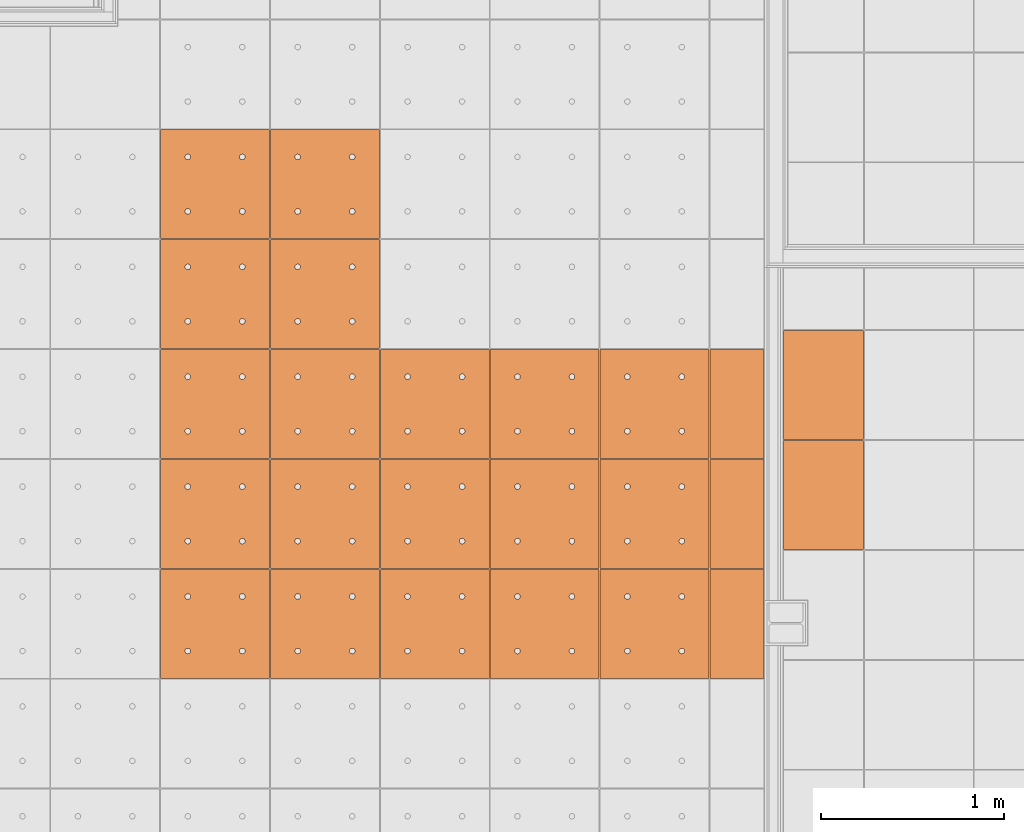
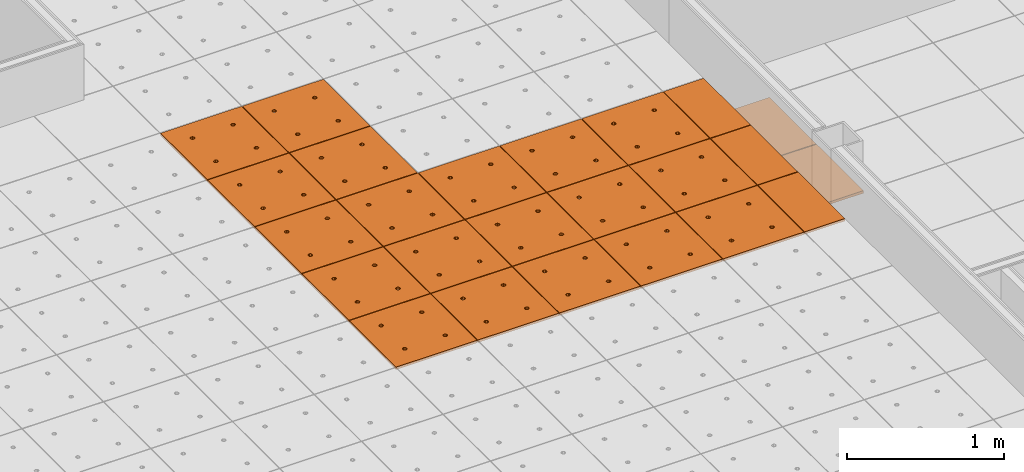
# One storey, part 253 of 338: 24 proxies, 2 elements without a shape of their own.
"""IFC2X3 building model written with IfcOpenShell, lengths in millimetres."""

from ifc_helpers import new_model, entity, si_unit, converted_unit, derived_unit, money_unit, direction, frame, origin_with_axes, place, context, subcontext, project, spatial, faceted_brep, source, transform, mapped, material, type_object, type_shapes, element, aggregate, save


model = new_model("IFC2X3")

# Units and contexts
model_context = context("Model", 3, precision=0.01, world=origin_with_axes(), true_north=direction((0.0, 1.0)))
plan_context = context("Plan", 3, precision=0.01, world=origin_with_axes(), true_north=direction((0.0, 1.0)))
body_context = subcontext(model_context, "Body", "Model", "MODEL_VIEW")
ifc_project = project(units=[si_unit("LENGTHUNIT", "METRE", prefix="MILLI"), si_unit("AREAUNIT", "SQUARE_METRE"), si_unit("VOLUMEUNIT", "CUBIC_METRE"), converted_unit("PLANEANGLEUNIT", "DEGREE", entity("IfcPlaneAngleMeasure", 0.0174532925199), si_unit("PLANEANGLEUNIT", "RADIAN"), dimensions=[0, 0, 0, 0, 0, 0, 0]), money_unit("EUR"), converted_unit("TIMEUNIT", "Year", entity("IfcTimeMeasure", 31556926.0), si_unit("TIMEUNIT", "SECOND"), dimensions=[0, 0, 1, 0, 0, 0, 0]), si_unit("MASSUNIT", "GRAM", prefix="KILO"), si_unit("THERMODYNAMICTEMPERATUREUNIT", "DEGREE_CELSIUS"), si_unit("LUMINOUSINTENSITYUNIT", "LUMEN"), si_unit("ENERGYUNIT", "JOULE", prefix="MEGA"), derived_unit("THERMALCONDUCTANCEUNIT", [(si_unit("POWERUNIT", "WATT"), 1), (si_unit("LENGTHUNIT", "METRE"), -1), (si_unit("THERMODYNAMICTEMPERATUREUNIT", "KELVIN"), -1)]), derived_unit("SPECIFICHEATCAPACITYUNIT", [(si_unit("ENERGYUNIT", "JOULE"), 1), (si_unit("MASSUNIT", "GRAM", prefix="KILO"), -1), (si_unit("THERMODYNAMICTEMPERATUREUNIT", "KELVIN"), -1)]), derived_unit("MASSDENSITYUNIT", [(si_unit("MASSUNIT", "GRAM", prefix="KILO"), 1), (si_unit("VOLUMEUNIT", "CUBIC_METRE"), -1)])], contexts=[model_context, plan_context])

# Site, building, storey
site_placement = place(None, origin_with_axes())
site = spatial("IfcSite", under=ifc_project, at=site_placement, Name="Fortuinstraat Woensdrecht", CompositionType="ELEMENT")
building_placement = place(site_placement, origin_with_axes())
building = spatial("IfcBuilding", under=site, at=building_placement, Name="IKC Fortuna", CompositionType="ELEMENT")
storey_placement = place(building_placement, origin_with_axes())
storey = spatial("IfcBuildingStorey", under=building, at=storey_placement, Name="00 begane grond", CompositionType="ELEMENT", Elevation=0.0)

# Covering, proxies
covering_type = type_object("IfcCoveringType", Name="Curtain Wall Type", PredefinedType="CEILING")
covering_1_placement = place(storey_placement, frame((21294.5342274, 19421.5253195, 2810.0), z_axis=(0.0, 0.0, 1.0), x_axis=(1.0, 0.0, 0.0)))
covering_1 = element("IfcCovering", 1, at=covering_1_placement, inside=storey, type_object=covering_type, Name="45_Plafondafwerking_P02", PredefinedType="CEILING")
ifc_material = material(Name="Gipsplaat")
building_element_proxy_type_1 = type_object("IfcBuildingElementProxyType", Name="Distinct Panel 443 x 600 x 20", PredefinedType="NOTDEFINED")
shared_shape_1 = source(origin_with_axes(), body_context, "Body", "Brep", [
    faceted_brep([(2.49999594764, 2.5, -10.0), (440.099264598, 2.49999999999, -10.0), (440.099264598, 2.49999999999, 10.0), (2.49999594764, 2.5, 10.0), (2.49999594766, 597.5, -10.0), (440.099264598, 597.5, -10.0), (440.099264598, 597.5, 10.0), (2.49999594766, 597.5, 10.0)], [[[0, 1, 2, 3]], [[0, 4, 5, 1]], [[1, 5, 6, 2]], [[3, 2, 6, 7]], [[4, 0, 3, 7]], [[5, 4, 7, 6]]]),
])
type_shapes(building_element_proxy_type_1, [shared_shape_1])
proxy_1_placement = place(covering_1_placement, frame((-521.299632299, 1200.0, 0.0), z_axis=(0.0, 0.0, 1.0), x_axis=(1.0, 0.0, 0.0)))
proxy_1 = element("IfcBuildingElementProxy", 2, at=proxy_1_placement, type_object=building_element_proxy_type_1, material=ifc_material, Name="__Panel-D", context=body_context, shape_type="MappedRepresentation", body=[
    mapped(shared_shape_1, transform((221.299632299, 300.0, 0.0), x_axis=(-1.0, 0.0, 0.0), y_axis=(0.0, -1.0, 0.0), z_axis=(0.0, 0.0, 1.0))),
])
proxy_2_placement = place(covering_1_placement, frame((-521.299632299, 1800.0, 0.0), z_axis=(0.0, 0.0, 1.0), x_axis=(1.0, 0.0, 0.0)))
proxy_2 = element("IfcBuildingElementProxy", 3, at=proxy_2_placement, type_object=building_element_proxy_type_1, material=ifc_material, Name="__Panel-D", context=body_context, shape_type="MappedRepresentation", body=[
    mapped(shared_shape_1, transform((221.299632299, 300.0, 0.0), x_axis=(-1.0, 0.0, 0.0), y_axis=(0.0, -1.0, 0.0), z_axis=(0.0, 0.0, 1.0))),
])
aggregate(covering_1, [proxy_1, proxy_2])

covering_2_placement = place(storey_placement, frame((17451.9845996, 24118.5314449, 3210.0), z_axis=(0.0, 0.0, 1.0), x_axis=(1.0, 0.0, 0.0)))
covering_2 = element("IfcCovering", 4, at=covering_2_placement, inside=storey, type_object=covering_type, Name="45_Plafondafwerking_P01", PredefinedType="CEILING")
building_element_proxy_type_2 = type_object("IfcBuildingElementProxyType", Name="Main Panel 600 x 600 x 20", PredefinedType="NOTDEFINED")
shared_shape_2 = source(origin_with_axes(), body_context, "Body", "Brep", [
    faceted_brep([(2.49999999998, 2.49999999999, -10.0), (300.0, 2.49999999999, -10.0), (300.0, 2.49999999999, 10.0), (2.49999999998, 2.49999999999, 10.0), (2.49999999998, 300.0, -10.0), (2.49999999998, 597.5, -10.0), (300.0, 597.5, -10.0), (597.5, 597.5, -10.0), (597.5, 300.0, -10.0), (597.5, 2.49999999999, -10.0), (166.25, 450.06232995, -10.0), (165.79423259, 452.64711538, -10.0), (164.896546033, 455.11348892, -10.0), (163.58421608, 457.38651108, -10.0), (161.897117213, 459.39711721, -10.0), (159.886511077, 461.08421608, -10.0), (157.613488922, 462.39654603, -10.0), (155.147115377, 463.29423259, -10.0), (152.562329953, 463.75, -10.0), (149.937670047, 463.75, -10.0), (147.352884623, 463.29423259, -10.0), (144.886511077, 462.39654603, -10.0), (142.613488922, 461.08421608, -10.0), (140.602882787, 459.39711721, -10.0), (138.91578392, 457.38651108, -10.0), (137.603453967, 455.11348892, -10.0), (136.705767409, 452.64711538, -10.0), (136.25, 450.06232995, -10.0), (136.25, 448.75, -10.0), (136.25, 447.43767005, -10.0), (136.705767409, 444.85288462, -10.0), (137.603453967, 442.38651108, -10.0), (138.91578392, 440.11348892, -10.0), (140.602882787, 438.10288279, -10.0), (142.613488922, 436.41578392, -10.0), (144.886511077, 435.10345397, -10.0), (147.352884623, 434.20576741, -10.0), (149.937670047, 433.75, -10.0), (152.562329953, 433.75, -10.0), (155.147115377, 434.20576741, -10.0), (157.613488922, 435.10345397, -10.0), (159.886511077, 436.41578392, -10.0), (161.897117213, 438.10288279, -10.0), (163.58421608, 440.11348892, -10.0), (164.896546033, 442.38651108, -10.0), (165.79423259, 444.85288462, -10.0), (166.25, 447.43767005, -10.0), (463.75, 450.06232995, -10.0), (463.29423259, 452.64711538, -10.0), (462.396546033, 455.11348892, -10.0), (461.08421608, 457.38651108, -10.0), (459.397117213, 459.39711721, -10.0), (457.386511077, 461.08421608, -10.0), (455.113488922, 462.39654603, -10.0), (452.647115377, 463.29423259, -10.0), (450.062329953, 463.75, -10.0), (447.437670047, 463.75, -10.0), (444.852884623, 463.29423259, -10.0), (442.386511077, 462.39654603, -10.0), (440.113488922, 461.08421608, -10.0), (438.102882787, 459.39711721, -10.0), (436.41578392, 457.38651108, -10.0), (435.103453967, 455.11348892, -10.0), (434.205767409, 452.64711538, -10.0), (433.75, 450.06232995, -10.0), (433.75, 448.75, -10.0), (433.75, 447.43767005, -10.0), (434.205767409, 444.85288462, -10.0), (435.103453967, 442.38651108, -10.0), (436.41578392, 440.11348892, -10.0), (438.102882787, 438.10288279, -10.0), (440.113488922, 436.41578392, -10.0), (442.386511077, 435.10345397, -10.0), (444.852884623, 434.20576741, -10.0), (447.437670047, 433.75, -10.0), (450.062329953, 433.75, -10.0), (452.647115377, 434.20576741, -10.0), (455.113488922, 435.10345397, -10.0), (457.386511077, 436.41578392, -10.0), (459.397117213, 438.10288279, -10.0), (461.08421608, 440.11348892, -10.0), (462.396546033, 442.38651108, -10.0), (463.29423259, 444.85288462, -10.0), (463.75, 447.43767005, -10.0), (463.75, 152.56232995, -10.0), (463.29423259, 155.14711538, -10.0), (462.396546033, 157.61348892, -10.0), (461.08421608, 159.88651108, -10.0), (459.397117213, 161.89711721, -10.0), (457.386511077, 163.58421608, -10.0), (455.113488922, 164.89654603, -10.0), (452.647115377, 165.79423259, -10.0), (450.062329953, 166.25, -10.0), (447.437670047, 166.25, -10.0), (444.852884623, 165.79423259, -10.0), (442.386511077, 164.89654603, -10.0), (440.113488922, 163.58421608, -10.0), (438.102882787, 161.89711721, -10.0), (436.41578392, 159.88651108, -10.0), (435.103453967, 157.61348892, -10.0), (434.205767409, 155.14711538, -10.0), (433.75, 152.56232995, -10.0), (433.75, 151.25, -10.0), (433.75, 149.93767005, -10.0), (434.205767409, 147.35288462, -10.0), (435.103453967, 144.88651108, -10.0), (436.41578392, 142.61348892, -10.0), (438.102882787, 140.60288279, -10.0), (440.113488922, 138.91578392, -10.0), (442.386511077, 137.60345397, -10.0), (444.852884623, 136.70576741, -10.0), (447.437670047, 136.25, -10.0), (450.062329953, 136.25, -10.0), (452.647115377, 136.70576741, -10.0), (455.113488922, 137.60345397, -10.0), (457.386511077, 138.91578392, -10.0), (459.397117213, 140.60288279, -10.0), (461.08421608, 142.61348892, -10.0), (462.396546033, 144.88651108, -10.0), (463.29423259, 147.35288462, -10.0), (463.75, 149.93767005, -10.0), (166.25, 152.56232995, -10.0), (165.79423259, 155.14711538, -10.0), (164.896546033, 157.61348892, -10.0), (163.58421608, 159.88651108, -10.0), (161.897117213, 161.89711721, -10.0), (159.886511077, 163.58421608, -10.0), (157.613488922, 164.89654603, -10.0), (155.147115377, 165.79423259, -10.0), (152.562329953, 166.25, -10.0), (149.937670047, 166.25, -10.0), (147.352884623, 165.79423259, -10.0), (144.886511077, 164.89654603, -10.0), (142.613488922, 163.58421608, -10.0), (140.602882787, 161.89711721, -10.0), (138.91578392, 159.88651108, -10.0), (137.603453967, 157.61348892, -10.0), (136.705767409, 155.14711538, -10.0), (136.25, 152.56232995, -10.0), (136.25, 151.25, -10.0), (136.25, 149.93767005, -10.0), (136.705767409, 147.35288462, -10.0), (137.603453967, 144.88651108, -10.0), (138.91578392, 142.61348892, -10.0), (140.602882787, 140.60288279, -10.0), (142.613488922, 138.91578392, -10.0), (144.886511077, 137.60345397, -10.0), (147.352884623, 136.70576741, -10.0), (149.937670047, 136.25, -10.0), (152.562329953, 136.25, -10.0), (155.147115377, 136.70576741, -10.0), (157.613488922, 137.60345397, -10.0), (159.886511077, 138.91578392, -10.0), (161.897117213, 140.60288279, -10.0), (163.58421608, 142.61348892, -10.0), (164.896546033, 144.88651108, -10.0), (165.79423259, 147.35288462, -10.0), (166.25, 149.93767005, -10.0), (597.5, 2.49999999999, 10.0), (597.5, 300.0, 10.0), (597.5, 597.5, 10.0), (300.0, 597.5, 10.0), (2.49999999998, 597.5, 10.0), (2.49999999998, 300.0, 10.0), (166.25, 450.06232995, 10.0), (166.25, 447.43767005, 10.0), (165.79423259, 444.85288462, 10.0), (164.896546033, 442.38651108, 10.0), (163.58421608, 440.11348892, 10.0), (161.897117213, 438.10288279, 10.0), (159.886511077, 436.41578392, 10.0), (157.613488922, 435.10345397, 10.0), (155.147115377, 434.20576741, 10.0), (152.562329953, 433.75, 10.0), (149.937670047, 433.75, 10.0), (147.352884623, 434.20576741, 10.0), (144.886511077, 435.10345397, 10.0), (142.613488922, 436.41578392, 10.0), (140.602882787, 438.10288279, 10.0), (138.91578392, 440.11348892, 10.0), (137.603453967, 442.38651108, 10.0), (136.705767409, 444.85288462, 10.0), (136.25, 447.43767005, 10.0), (136.25, 448.75, 10.0), (136.25, 450.06232995, 10.0), (136.705767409, 452.64711538, 10.0), (137.603453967, 455.11348892, 10.0), (138.91578392, 457.38651108, 10.0), (140.602882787, 459.39711721, 10.0), (142.613488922, 461.08421608, 10.0), (144.886511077, 462.39654603, 10.0), (147.352884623, 463.29423259, 10.0), (149.937670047, 463.75, 10.0), (152.562329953, 463.75, 10.0), (155.147115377, 463.29423259, 10.0), (157.613488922, 462.39654603, 10.0), (159.886511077, 461.08421608, 10.0), (161.897117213, 459.39711721, 10.0), (163.58421608, 457.38651108, 10.0), (164.896546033, 455.11348892, 10.0), (165.79423259, 452.64711538, 10.0), (463.75, 450.06232995, 10.0), (463.75, 447.43767005, 10.0), (463.29423259, 444.85288462, 10.0), (462.396546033, 442.38651108, 10.0), (461.08421608, 440.11348892, 10.0), (459.397117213, 438.10288279, 10.0), (457.386511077, 436.41578392, 10.0), (455.113488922, 435.10345397, 10.0), (452.647115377, 434.20576741, 10.0), (450.062329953, 433.75, 10.0), (447.437670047, 433.75, 10.0), (444.852884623, 434.20576741, 10.0), (442.386511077, 435.10345397, 10.0), (440.113488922, 436.41578392, 10.0), (438.102882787, 438.10288279, 10.0), (436.41578392, 440.11348892, 10.0), (435.103453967, 442.38651108, 10.0), (434.205767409, 444.85288462, 10.0), (433.75, 447.43767005, 10.0), (433.75, 448.75, 10.0), (433.75, 450.06232995, 10.0), (434.205767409, 452.64711538, 10.0), (435.103453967, 455.11348892, 10.0), (436.41578392, 457.38651108, 10.0), (438.102882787, 459.39711721, 10.0), (440.113488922, 461.08421608, 10.0), (442.386511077, 462.39654603, 10.0), (444.852884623, 463.29423259, 10.0), (447.437670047, 463.75, 10.0), (450.062329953, 463.75, 10.0), (452.647115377, 463.29423259, 10.0), (455.113488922, 462.39654603, 10.0), (457.386511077, 461.08421608, 10.0), (459.397117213, 459.39711721, 10.0), (461.08421608, 457.38651108, 10.0), (462.396546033, 455.11348892, 10.0), (463.29423259, 452.64711538, 10.0), (463.75, 152.56232995, 10.0), (463.75, 149.93767005, 10.0), (463.29423259, 147.35288462, 10.0), (462.396546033, 144.88651108, 10.0), (461.08421608, 142.61348892, 10.0), (459.397117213, 140.60288279, 10.0), (457.386511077, 138.91578392, 10.0), (455.113488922, 137.60345397, 10.0), (452.647115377, 136.70576741, 10.0), (450.062329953, 136.25, 10.0), (447.437670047, 136.25, 10.0), (444.852884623, 136.70576741, 10.0), (442.386511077, 137.60345397, 10.0), (440.113488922, 138.91578392, 10.0), (438.102882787, 140.60288279, 10.0), (436.41578392, 142.61348892, 10.0), (435.103453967, 144.88651108, 10.0), (434.205767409, 147.35288462, 10.0), (433.75, 149.93767005, 10.0), (433.75, 151.25, 10.0), (433.75, 152.56232995, 10.0), (434.205767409, 155.14711538, 10.0), (435.103453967, 157.61348892, 10.0), (436.41578392, 159.88651108, 10.0), (438.102882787, 161.89711721, 10.0), (440.113488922, 163.58421608, 10.0), (442.386511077, 164.89654603, 10.0), (444.852884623, 165.79423259, 10.0), (447.437670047, 166.25, 10.0), (450.062329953, 166.25, 10.0), (452.647115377, 165.79423259, 10.0), (455.113488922, 164.89654603, 10.0), (457.386511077, 163.58421608, 10.0), (459.397117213, 161.89711721, 10.0), (461.08421608, 159.88651108, 10.0), (462.396546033, 157.61348892, 10.0), (463.29423259, 155.14711538, 10.0), (166.25, 152.56232995, 10.0), (166.25, 149.93767005, 10.0), (165.79423259, 147.35288462, 10.0), (164.896546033, 144.88651108, 10.0), (163.58421608, 142.61348892, 10.0), (161.897117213, 140.60288279, 10.0), (159.886511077, 138.91578392, 10.0), (157.613488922, 137.60345397, 10.0), (155.147115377, 136.70576741, 10.0), (152.562329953, 136.25, 10.0), (149.937670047, 136.25, 10.0), (147.352884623, 136.70576741, 10.0), (144.886511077, 137.60345397, 10.0), (142.613488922, 138.91578392, 10.0), (140.602882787, 140.60288279, 10.0), (138.91578392, 142.61348892, 10.0), (137.603453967, 144.88651108, 10.0), (136.705767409, 147.35288462, 10.0), (136.25, 149.93767005, 10.0), (136.25, 151.25, 10.0), (136.25, 152.56232995, 10.0), (136.705767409, 155.14711538, 10.0), (137.603453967, 157.61348892, 10.0), (138.91578392, 159.88651108, 10.0), (140.602882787, 161.89711721, 10.0), (142.613488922, 163.58421608, 10.0), (144.886511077, 164.89654603, 10.0), (147.352884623, 165.79423259, 10.0), (149.937670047, 166.25, 10.0), (152.562329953, 166.25, 10.0), (155.147115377, 165.79423259, 10.0), (157.613488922, 164.89654603, 10.0), (159.886511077, 163.58421608, 10.0), (161.897117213, 161.89711721, 10.0), (163.58421608, 159.88651108, 10.0), (164.896546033, 157.61348892, 10.0), (165.79423259, 155.14711538, 10.0)], [[[0, 1, 2, 3]], [[0, 4, 5, 6, 7, 8, 9, 1], [10, 11, 12, 13, 14, 15, 16, 17, 18, 19, 20, 21, 22, 23, 24, 25, 26, 27, 28, 29, 30, 31, 32, 33, 34, 35, 36, 37, 38, 39, 40, 41, 42, 43, 44, 45, 46], [47, 48, 49, 50, 51, 52, 53, 54, 55, 56, 57, 58, 59, 60, 61, 62, 63, 64, 65, 66, 67, 68, 69, 70, 71, 72, 73, 74, 75, 76, 77, 78, 79, 80, 81, 82, 83], [84, 85, 86, 87, 88, 89, 90, 91, 92, 93, 94, 95, 96, 97, 98, 99, 100, 101, 102, 103, 104, 105, 106, 107, 108, 109, 110, 111, 112, 113, 114, 115, 116, 117, 118, 119, 120], [121, 122, 123, 124, 125, 126, 127, 128, 129, 130, 131, 132, 133, 134, 135, 136, 137, 138, 139, 140, 141, 142, 143, 144, 145, 146, 147, 148, 149, 150, 151, 152, 153, 154, 155, 156, 157]], [[1, 9, 158, 2]], [[3, 2, 158, 159, 160, 161, 162, 163], [164, 165, 166, 167, 168, 169, 170, 171, 172, 173, 174, 175, 176, 177, 178, 179, 180, 181, 182, 183, 184, 185, 186, 187, 188, 189, 190, 191, 192, 193, 194, 195, 196, 197, 198, 199, 200], [201, 202, 203, 204, 205, 206, 207, 208, 209, 210, 211, 212, 213, 214, 215, 216, 217, 218, 219, 220, 221, 222, 223, 224, 225, 226, 227, 228, 229, 230, 231, 232, 233, 234, 235, 236, 237], [238, 239, 240, 241, 242, 243, 244, 245, 246, 247, 248, 249, 250, 251, 252, 253, 254, 255, 256, 257, 258, 259, 260, 261, 262, 263, 264, 265, 266, 267, 268, 269, 270, 271, 272, 273, 274], [275, 276, 277, 278, 279, 280, 281, 282, 283, 284, 285, 286, 287, 288, 289, 290, 291, 292, 293, 294, 295, 296, 297, 298, 299, 300, 301, 302, 303, 304, 305, 306, 307, 308, 309, 310, 311]], [[4, 0, 3, 163]], [[5, 4, 163, 162]], [[6, 5, 162, 161]], [[7, 6, 161, 160]], [[8, 7, 160, 159]], [[9, 8, 159, 158]], [[11, 10, 164, 200]], [[12, 11, 200, 199]], [[13, 12, 199, 198]], [[14, 13, 198, 197]], [[15, 14, 197, 196]], [[16, 15, 196, 195]], [[17, 16, 195, 194]], [[18, 17, 194, 193]], [[19, 18, 193, 192]], [[20, 19, 192, 191]], [[21, 20, 191, 190]], [[22, 21, 190, 189]], [[23, 22, 189, 188]], [[24, 23, 188, 187]], [[25, 24, 187, 186]], [[26, 25, 186, 185]], [[27, 26, 185, 184]], [[28, 27, 184, 183]], [[29, 28, 183, 182]], [[30, 29, 182, 181]], [[31, 30, 181, 180]], [[32, 31, 180, 179]], [[33, 32, 179, 178]], [[34, 33, 178, 177]], [[35, 34, 177, 176]], [[36, 35, 176, 175]], [[37, 36, 175, 174]], [[38, 37, 174, 173]], [[39, 38, 173, 172]], [[40, 39, 172, 171]], [[41, 40, 171, 170]], [[42, 41, 170, 169]], [[43, 42, 169, 168]], [[44, 43, 168, 167]], [[45, 44, 167, 166]], [[46, 45, 166, 165]], [[10, 46, 165, 164]], [[48, 47, 201, 237]], [[49, 48, 237, 236]], [[50, 49, 236, 235]], [[51, 50, 235, 234]], [[52, 51, 234, 233]], [[53, 52, 233, 232]], [[54, 53, 232, 231]], [[55, 54, 231, 230]], [[56, 55, 230, 229]], [[57, 56, 229, 228]], [[58, 57, 228, 227]], [[59, 58, 227, 226]], [[60, 59, 226, 225]], [[61, 60, 225, 224]], [[62, 61, 224, 223]], [[63, 62, 223, 222]], [[64, 63, 222, 221]], [[65, 64, 221, 220]], [[66, 65, 220, 219]], [[67, 66, 219, 218]], [[68, 67, 218, 217]], [[69, 68, 217, 216]], [[70, 69, 216, 215]], [[71, 70, 215, 214]], [[72, 71, 214, 213]], [[73, 72, 213, 212]], [[74, 73, 212, 211]], [[75, 74, 211, 210]], [[76, 75, 210, 209]], [[77, 76, 209, 208]], [[78, 77, 208, 207]], [[79, 78, 207, 206]], [[80, 79, 206, 205]], [[81, 80, 205, 204]], [[82, 81, 204, 203]], [[83, 82, 203, 202]], [[47, 83, 202, 201]], [[85, 84, 238, 274]], [[86, 85, 274, 273]], [[87, 86, 273, 272]], [[88, 87, 272, 271]], [[89, 88, 271, 270]], [[90, 89, 270, 269]], [[91, 90, 269, 268]], [[92, 91, 268, 267]], [[93, 92, 267, 266]], [[94, 93, 266, 265]], [[95, 94, 265, 264]], [[96, 95, 264, 263]], [[97, 96, 263, 262]], [[98, 97, 262, 261]], [[99, 98, 261, 260]], [[100, 99, 260, 259]], [[101, 100, 259, 258]], [[102, 101, 258, 257]], [[103, 102, 257, 256]], [[104, 103, 256, 255]], [[105, 104, 255, 254]], [[106, 105, 254, 253]], [[107, 106, 253, 252]], [[108, 107, 252, 251]], [[109, 108, 251, 250]], [[110, 109, 250, 249]], [[111, 110, 249, 248]], [[112, 111, 248, 247]], [[113, 112, 247, 246]], [[114, 113, 246, 245]], [[115, 114, 245, 244]], [[116, 115, 244, 243]], [[117, 116, 243, 242]], [[118, 117, 242, 241]], [[119, 118, 241, 240]], [[120, 119, 240, 239]], [[84, 120, 239, 238]], [[122, 121, 275, 311]], [[123, 122, 311, 310]], [[124, 123, 310, 309]], [[125, 124, 309, 308]], [[126, 125, 308, 307]], [[127, 126, 307, 306]], [[128, 127, 306, 305]], [[129, 128, 305, 304]], [[130, 129, 304, 303]], [[131, 130, 303, 302]], [[132, 131, 302, 301]], [[133, 132, 301, 300]], [[134, 133, 300, 299]], [[135, 134, 299, 298]], [[136, 135, 298, 297]], [[137, 136, 297, 296]], [[138, 137, 296, 295]], [[139, 138, 295, 294]], [[140, 139, 294, 293]], [[141, 140, 293, 292]], [[142, 141, 292, 291]], [[143, 142, 291, 290]], [[144, 143, 290, 289]], [[145, 144, 289, 288]], [[146, 145, 288, 287]], [[147, 146, 287, 286]], [[148, 147, 286, 285]], [[149, 148, 285, 284]], [[150, 149, 284, 283]], [[151, 150, 283, 282]], [[152, 151, 282, 281]], [[153, 152, 281, 280]], [[154, 153, 280, 279]], [[155, 154, 279, 278]], [[156, 155, 278, 277]], [[157, 156, 277, 276]], [[121, 157, 276, 275]]]),
])
type_shapes(building_element_proxy_type_2, [shared_shape_2])
proxy_3_placement = place(covering_2_placement, frame((0.0, -4200.0, 0.0), z_axis=(0.0, 0.0, 1.0), x_axis=(1.0, 0.0, 0.0)))
proxy_3 = element("IfcBuildingElementProxy", 5, at=proxy_3_placement, type_object=building_element_proxy_type_2, material=ifc_material, Name="__600x666 Rockfon Krios", context=body_context, shape_type="MappedRepresentation", body=[
    mapped(shared_shape_2, transform((300.0, 300.0, 0.0), x_axis=(-1.0, 0.0, 0.0), y_axis=(0.0, -1.0, 0.0), z_axis=(0.0, 0.0, 1.0))),
])
proxy_4_placement = place(covering_2_placement, frame((2400.0, -3000.0, 0.0), z_axis=(0.0, 0.0, 1.0), x_axis=(1.0, 0.0, 0.0)))
proxy_4 = element("IfcBuildingElementProxy", 6, at=proxy_4_placement, type_object=building_element_proxy_type_2, material=ifc_material, Name="__600x672 Rockfon Krios", context=body_context, shape_type="MappedRepresentation", body=[
    mapped(shared_shape_2, transform((300.0, 300.0, 0.0), x_axis=(-1.0, 0.0, 0.0), y_axis=(0.0, -1.0, 0.0), z_axis=(0.0, 0.0, 1.0))),
])
proxy_5_placement = place(covering_2_placement, frame((2400.0, -3600.0, 0.0), z_axis=(0.0, 0.0, 1.0), x_axis=(1.0, 0.0, 0.0)))
proxy_5 = element("IfcBuildingElementProxy", 7, at=proxy_5_placement, type_object=building_element_proxy_type_2, material=ifc_material, Name="__600x673 Rockfon Krios", context=body_context, shape_type="MappedRepresentation", body=[
    mapped(shared_shape_2, transform((300.0, 300.0, 0.0), x_axis=(-1.0, 0.0, 0.0), y_axis=(0.0, -1.0, 0.0), z_axis=(0.0, 0.0, 1.0))),
])
proxy_6_placement = place(covering_2_placement, frame((2400.0, -4200.0, 0.0), z_axis=(0.0, 0.0, 1.0), x_axis=(1.0, 0.0, 0.0)))
proxy_6 = element("IfcBuildingElementProxy", 8, at=proxy_6_placement, type_object=building_element_proxy_type_2, material=ifc_material, Name="__600x674 Rockfon Krios", context=body_context, shape_type="MappedRepresentation", body=[
    mapped(shared_shape_2, transform((300.0, 300.0, 0.0), x_axis=(-1.0, 0.0, 0.0), y_axis=(0.0, -1.0, 0.0), z_axis=(0.0, 0.0, 1.0))),
])
proxy_7_placement = place(covering_2_placement, frame((1800.0, -3000.0, 0.0), z_axis=(0.0, 0.0, 1.0), x_axis=(1.0, 0.0, 0.0)))
proxy_7 = element("IfcBuildingElementProxy", 9, at=proxy_7_placement, type_object=building_element_proxy_type_2, material=ifc_material, Name="__600x685 Rockfon Krios", context=body_context, shape_type="MappedRepresentation", body=[
    mapped(shared_shape_2, transform((300.0, 300.0, 0.0), x_axis=(-1.0, 0.0, 0.0), y_axis=(0.0, -1.0, 0.0), z_axis=(0.0, 0.0, 1.0))),
])
proxy_8_placement = place(covering_2_placement, frame((1800.0, -3600.0, 0.0), z_axis=(0.0, 0.0, 1.0), x_axis=(1.0, 0.0, 0.0)))
proxy_8 = element("IfcBuildingElementProxy", 10, at=proxy_8_placement, type_object=building_element_proxy_type_2, material=ifc_material, Name="__600x686 Rockfon Krios", context=body_context, shape_type="MappedRepresentation", body=[
    mapped(shared_shape_2, transform((300.0, 300.0, 0.0), x_axis=(-1.0, 0.0, 0.0), y_axis=(0.0, -1.0, 0.0), z_axis=(0.0, 0.0, 1.0))),
])
proxy_9_placement = place(covering_2_placement, frame((1800.0, -4200.0, 0.0), z_axis=(0.0, 0.0, 1.0), x_axis=(1.0, 0.0, 0.0)))
proxy_9 = element("IfcBuildingElementProxy", 11, at=proxy_9_placement, type_object=building_element_proxy_type_2, material=ifc_material, Name="__600x687 Rockfon Krios", context=body_context, shape_type="MappedRepresentation", body=[
    mapped(shared_shape_2, transform((300.0, 300.0, 0.0), x_axis=(-1.0, 0.0, 0.0), y_axis=(0.0, -1.0, 0.0), z_axis=(0.0, 0.0, 1.0))),
])
proxy_10_placement = place(covering_2_placement, frame((1200.0, -3000.0, 0.0), z_axis=(0.0, 0.0, 1.0), x_axis=(1.0, 0.0, 0.0)))
proxy_10 = element("IfcBuildingElementProxy", 12, at=proxy_10_placement, type_object=building_element_proxy_type_2, material=ifc_material, Name="__600x698 Rockfon Krios", context=body_context, shape_type="MappedRepresentation", body=[
    mapped(shared_shape_2, transform((300.0, 300.0, 0.0), x_axis=(-1.0, 0.0, 0.0), y_axis=(0.0, -1.0, 0.0), z_axis=(0.0, 0.0, 1.0))),
])
proxy_11_placement = place(covering_2_placement, frame((1200.0, -3600.0, 0.0), z_axis=(0.0, 0.0, 1.0), x_axis=(1.0, 0.0, 0.0)))
proxy_11 = element("IfcBuildingElementProxy", 13, at=proxy_11_placement, type_object=building_element_proxy_type_2, material=ifc_material, Name="__600x699 Rockfon Krios", context=body_context, shape_type="MappedRepresentation", body=[
    mapped(shared_shape_2, transform((300.0, 300.0, 0.0), x_axis=(-1.0, 0.0, 0.0), y_axis=(0.0, -1.0, 0.0), z_axis=(0.0, 0.0, 1.0))),
])
proxy_12_placement = place(covering_2_placement, frame((1200.0, -4200.0, 0.0), z_axis=(0.0, 0.0, 1.0), x_axis=(1.0, 0.0, 0.0)))
proxy_12 = element("IfcBuildingElementProxy", 14, at=proxy_12_placement, type_object=building_element_proxy_type_2, material=ifc_material, Name="__600x700 Rockfon Krios", context=body_context, shape_type="MappedRepresentation", body=[
    mapped(shared_shape_2, transform((300.0, 300.0, 0.0), x_axis=(-1.0, 0.0, 0.0), y_axis=(0.0, -1.0, 0.0), z_axis=(0.0, 0.0, 1.0))),
])
proxy_13_placement = place(covering_2_placement, frame((600.0, -1800.0, 0.0), z_axis=(0.0, 0.0, 1.0), x_axis=(1.0, 0.0, 0.0)))
proxy_13 = element("IfcBuildingElementProxy", 15, at=proxy_13_placement, type_object=building_element_proxy_type_2, material=ifc_material, Name="__600x709 Rockfon Krios", context=body_context, shape_type="MappedRepresentation", body=[
    mapped(shared_shape_2, transform((300.0, 300.0, 0.0), x_axis=(-1.0, 0.0, 0.0), y_axis=(0.0, -1.0, 0.0), z_axis=(0.0, 0.0, 1.0))),
])
proxy_14_placement = place(covering_2_placement, frame((600.0, -2400.0, 0.0), z_axis=(0.0, 0.0, 1.0), x_axis=(1.0, 0.0, 0.0)))
proxy_14 = element("IfcBuildingElementProxy", 16, at=proxy_14_placement, type_object=building_element_proxy_type_2, material=ifc_material, Name="__600x710 Rockfon Krios", context=body_context, shape_type="MappedRepresentation", body=[
    mapped(shared_shape_2, transform((300.0, 300.0, 0.0), x_axis=(-1.0, 0.0, 0.0), y_axis=(0.0, -1.0, 0.0), z_axis=(0.0, 0.0, 1.0))),
])
proxy_15_placement = place(covering_2_placement, frame((600.0, -3000.0, 0.0), z_axis=(0.0, 0.0, 1.0), x_axis=(1.0, 0.0, 0.0)))
proxy_15 = element("IfcBuildingElementProxy", 17, at=proxy_15_placement, type_object=building_element_proxy_type_2, material=ifc_material, Name="__600x711 Rockfon Krios", context=body_context, shape_type="MappedRepresentation", body=[
    mapped(shared_shape_2, transform((300.0, 300.0, 0.0), x_axis=(-1.0, 0.0, 0.0), y_axis=(0.0, -1.0, 0.0), z_axis=(0.0, 0.0, 1.0))),
])
proxy_16_placement = place(covering_2_placement, frame((600.0, -3600.0, 0.0), z_axis=(0.0, 0.0, 1.0), x_axis=(1.0, 0.0, 0.0)))
proxy_16 = element("IfcBuildingElementProxy", 18, at=proxy_16_placement, type_object=building_element_proxy_type_2, material=ifc_material, Name="__600x712 Rockfon Krios", context=body_context, shape_type="MappedRepresentation", body=[
    mapped(shared_shape_2, transform((300.0, 300.0, 0.0), x_axis=(-1.0, 0.0, 0.0), y_axis=(0.0, -1.0, 0.0), z_axis=(0.0, 0.0, 1.0))),
])
proxy_17_placement = place(covering_2_placement, frame((600.0, -4200.0, 0.0), z_axis=(0.0, 0.0, 1.0), x_axis=(1.0, 0.0, 0.0)))
proxy_17 = element("IfcBuildingElementProxy", 19, at=proxy_17_placement, type_object=building_element_proxy_type_2, material=ifc_material, Name="__600x713 Rockfon Krios", context=body_context, shape_type="MappedRepresentation", body=[
    mapped(shared_shape_2, transform((300.0, 300.0, 0.0), x_axis=(-1.0, 0.0, 0.0), y_axis=(0.0, -1.0, 0.0), z_axis=(0.0, 0.0, 1.0))),
])
proxy_18_placement = place(covering_2_placement, frame((0.0, -1800.0, 0.0), z_axis=(0.0, 0.0, 1.0), x_axis=(1.0, 0.0, 0.0)))
proxy_18 = element("IfcBuildingElementProxy", 20, at=proxy_18_placement, type_object=building_element_proxy_type_2, material=ifc_material, Name="__600x722 Rockfon Krios", context=body_context, shape_type="MappedRepresentation", body=[
    mapped(shared_shape_2, transform((300.0, 300.0, 0.0), x_axis=(-1.0, 0.0, 0.0), y_axis=(0.0, -1.0, 0.0), z_axis=(0.0, 0.0, 1.0))),
])
proxy_19_placement = place(covering_2_placement, frame((0.0, -2400.0, 0.0), z_axis=(0.0, 0.0, 1.0), x_axis=(1.0, 0.0, 0.0)))
proxy_19 = element("IfcBuildingElementProxy", 21, at=proxy_19_placement, type_object=building_element_proxy_type_2, material=ifc_material, Name="__600x723 Rockfon Krios", context=body_context, shape_type="MappedRepresentation", body=[
    mapped(shared_shape_2, transform((300.0, 300.0, 0.0), x_axis=(-1.0, 0.0, 0.0), y_axis=(0.0, -1.0, 0.0), z_axis=(0.0, 0.0, 1.0))),
])
proxy_20_placement = place(covering_2_placement, frame((0.0, -3000.0, 0.0), z_axis=(0.0, 0.0, 1.0), x_axis=(1.0, 0.0, 0.0)))
proxy_20 = element("IfcBuildingElementProxy", 22, at=proxy_20_placement, type_object=building_element_proxy_type_2, material=ifc_material, Name="__600x724 Rockfon Krios", context=body_context, shape_type="MappedRepresentation", body=[
    mapped(shared_shape_2, transform((300.0, 300.0, 0.0), x_axis=(-1.0, 0.0, 0.0), y_axis=(0.0, -1.0, 0.0), z_axis=(0.0, 0.0, 1.0))),
])
proxy_21_placement = place(covering_2_placement, frame((0.0, -3600.0, 0.0), z_axis=(0.0, 0.0, 1.0), x_axis=(1.0, 0.0, 0.0)))
proxy_21 = element("IfcBuildingElementProxy", 23, at=proxy_21_placement, type_object=building_element_proxy_type_2, material=ifc_material, Name="__600x725 Rockfon Krios", context=body_context, shape_type="MappedRepresentation", body=[
    mapped(shared_shape_2, transform((300.0, 300.0, 0.0), x_axis=(-1.0, 0.0, 0.0), y_axis=(0.0, -1.0, 0.0), z_axis=(0.0, 0.0, 1.0))),
])
building_element_proxy_type_3 = type_object("IfcBuildingElementProxyType", Name="300 x 600 x 20", PredefinedType="NOTDEFINED")
shared_shape_3 = source(origin_with_axes(), body_context, "Body", "Brep", [
    faceted_brep([(302.549576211, 2.5, -10.0), (597.5, 2.49999999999, -10.0), (597.5, 2.49999999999, 10.0), (302.549576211, 2.5, 10.0), (302.549576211, 597.5, -10.0), (597.5, 597.5, -10.0), (597.5, 597.5, 10.0), (302.549576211, 597.5, 10.0)], [[[0, 1, 2, 3]], [[0, 4, 5, 1]], [[1, 5, 6, 2]], [[3, 2, 6, 7]], [[4, 0, 3, 7]], [[5, 4, 7, 6]]]),
])
proxy_22_placement = place(covering_2_placement, frame((2849.97521203, -3600.0, 0.0), z_axis=(0.0, 0.0, 1.0), x_axis=(1.0, 0.0, 0.0)))
proxy_22 = element("IfcBuildingElementProxy", 24, at=proxy_22_placement, type_object=building_element_proxy_type_3, material=ifc_material, Name="__600x652 Rockfon Krios", context=body_context, shape_type="MappedRepresentation", body=[
    mapped(shared_shape_3, transform((450.024787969, 300.0, 0.0), x_axis=(-1.0, 0.0, 0.0), y_axis=(0.0, -1.0, 0.0), z_axis=(0.0, 0.0, 1.0))),
])
proxy_23_placement = place(covering_2_placement, frame((2849.97521203, -4200.0, 0.0), z_axis=(0.0, 0.0, 1.0), x_axis=(1.0, 0.0, 0.0)))
proxy_23 = element("IfcBuildingElementProxy", 25, at=proxy_23_placement, type_object=building_element_proxy_type_3, material=ifc_material, Name="__600x762 Rockfon Krios", context=body_context, shape_type="MappedRepresentation", body=[
    mapped(shared_shape_3, transform((450.024787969, 300.0, 0.0), x_axis=(-1.0, 0.0, 0.0), y_axis=(0.0, -1.0, 0.0), z_axis=(0.0, 0.0, 1.0))),
])
shared_shape_4 = source(origin_with_axes(), body_context, "Body", "Brep", [
    faceted_brep([(302.549576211, 2.5, -10.0), (597.5, 2.49999999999, -10.0), (597.5, 2.49999999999, 10.0), (302.549576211, 2.5, 10.0), (302.549576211, 597.5, -10.0), (597.5, 597.5, -10.0), (597.5, 597.5, 10.0), (302.549576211, 597.5, 10.0)], [[[0, 1, 2, 3]], [[0, 4, 5, 1]], [[1, 5, 6, 2]], [[3, 2, 6, 7]], [[4, 0, 3, 7]], [[5, 4, 7, 6]]]),
])
type_shapes(building_element_proxy_type_3, [shared_shape_3, shared_shape_4])
proxy_24_placement = place(covering_2_placement, frame((2849.97521203, -3000.0, 0.0), z_axis=(0.0, 0.0, 1.0), x_axis=(1.0, 0.0, 0.0)))
proxy_24 = element("IfcBuildingElementProxy", 26, at=proxy_24_placement, type_object=building_element_proxy_type_3, material=ifc_material, Name="__600x660 Rockfon Krios", context=body_context, shape_type="MappedRepresentation", body=[
    mapped(shared_shape_4, transform((450.024787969, 300.0, 0.0), x_axis=(-1.0, 0.0, 0.0), y_axis=(0.0, -1.0, 0.0), z_axis=(0.0, 0.0, 1.0))),
])
aggregate(covering_2, [proxy_22, proxy_24, proxy_3, proxy_4, proxy_5, proxy_6, proxy_7, proxy_8, proxy_9, proxy_10, proxy_11, proxy_12, proxy_13, proxy_14, proxy_15, proxy_16, proxy_17, proxy_18, proxy_19, proxy_20, proxy_21, proxy_23])

save(model, "model.ifc")
